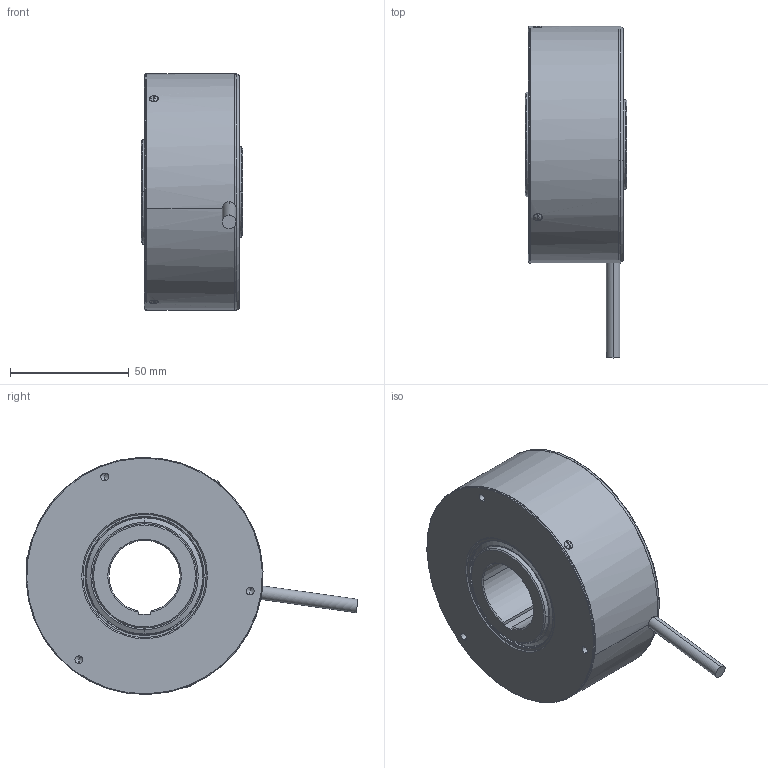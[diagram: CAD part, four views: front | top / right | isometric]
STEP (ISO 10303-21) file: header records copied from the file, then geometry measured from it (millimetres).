
FILE_DESCRIPTION (( 'STEP AP214' ), '1' );
FILE_NAME ('ﾋﾈﾐ-2100ﾀ.STEP', '2017-05-23T09:01:41', ( '' ), ( '' ), 'SwSTEP 2.0', 'SolidWorks 2013', '' );
FILE_SCHEMA (( 'AUTOMOTIVE_DESIGN' ));
Length unit declared in the file: millimetre
Products named in the file (1): ﾋﾈﾐ-2100ﾀ
Bounding box: 43 x 140 x 99.97 mm (x, y, z)
Volume: 152210 mm3; surface area: 104690.5 mm2
Topology: 26 solids, 26 shells, 1914 faces, 5695 edges, 3705 vertices
Faces by surface type: sphere 524, cone 467, cylinder 397, plane 260, torus 258, bspline 8
Entity records: 108865 total; most frequent: CARTESIAN_POINT 36840, ORIENTED_EDGE 11334, DIRECTION 10480, EDGE_CURVE 5667, AXIS2_PLACEMENT_3D 4766, VERTEX_POINT 3705, CIRCLE 2859, EDGE_LOOP 2122
